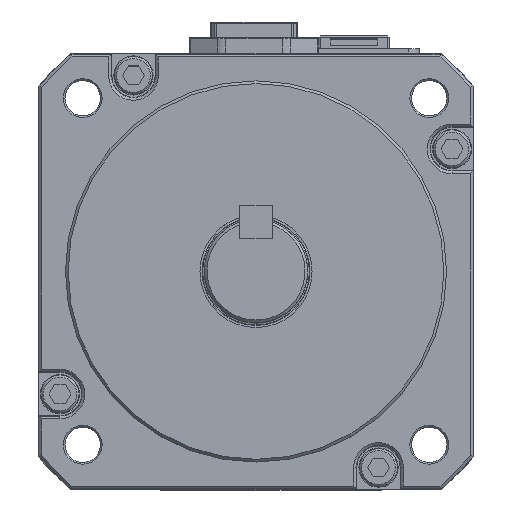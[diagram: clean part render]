
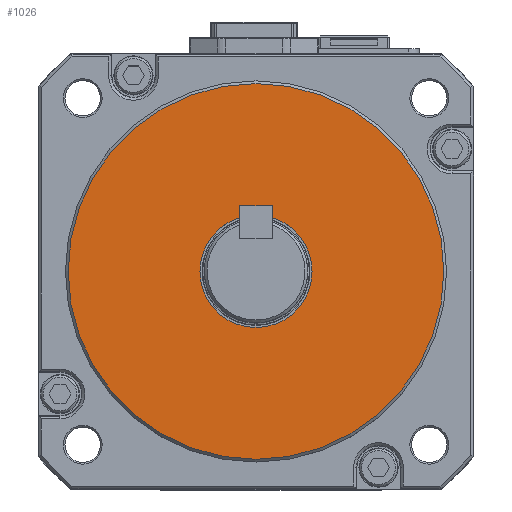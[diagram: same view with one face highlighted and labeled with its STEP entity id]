
A CAD part, top view. The second image highlights one B-rep face of the part: STEP entity #1026.
In plain terms, the highlighted planar face has unit normal (0, 0, 1).
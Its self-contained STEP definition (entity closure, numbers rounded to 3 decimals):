
#1026 = ADVANCED_FACE ( 'NONE', ( #48618, #39283 ), #28908, .T. ) ;
#1834 = CARTESIAN_POINT ( 'NONE',  ( 10.3, 0., 13. ) ) ;
#2852 = CIRCLE ( 'NONE', #37135, 34.5 ) ;
#3521 = EDGE_LOOP ( 'NONE', ( #46020 ) ) ;
#4450 = CARTESIAN_POINT ( 'NONE',  ( 34.5, 0., 13. ) ) ;
#6322 = ORIENTED_EDGE ( 'NONE', *, *, #39478, .F. ) ;
#13548 = VERTEX_POINT ( 'NONE', #4450 ) ;
#17066 = EDGE_LOOP ( 'NONE', ( #6322 ) ) ;
#17424 = VERTEX_POINT ( 'NONE', #1834 ) ;
#22425 = EDGE_CURVE ( 'NONE', #13548, #13548, #2852, .T. ) ;
#28908 = PLANE ( 'NONE',  #30255 ) ;
#30255 = AXIS2_PLACEMENT_3D ( 'NONE', #53460, #38046, #58089 ) ;
#30614 = CARTESIAN_POINT ( 'NONE',  ( 0., 0., 13. ) ) ;
#30941 = DIRECTION ( 'NONE',  ( 0., 0., 1. ) ) ;
#37135 = AXIS2_PLACEMENT_3D ( 'NONE', #30614, #30941, #45793 ) ;
#37921 = CIRCLE ( 'NONE', #50233, 10.3 ) ;
#38046 = DIRECTION ( 'NONE',  ( 0., 0., 1. ) ) ;
#39283 = FACE_OUTER_BOUND ( 'NONE', #3521, .T. ) ;
#39478 = EDGE_CURVE ( 'NONE', #17424, #17424, #37921, .T. ) ;
#45793 = DIRECTION ( 'NONE',  ( 1., 0., 0. ) ) ;
#46020 = ORIENTED_EDGE ( 'NONE', *, *, #22425, .T. ) ;
#46540 = DIRECTION ( 'NONE',  ( 1., 0., 0. ) ) ;
#48371 = CARTESIAN_POINT ( 'NONE',  ( 0., 0., 13. ) ) ;
#48618 = FACE_BOUND ( 'NONE', #17066, .T. ) ;
#50233 = AXIS2_PLACEMENT_3D ( 'NONE', #48371, #62995, #46540 ) ;
#53460 = CARTESIAN_POINT ( 'NONE',  ( 0., 0., 13. ) ) ;
#58089 = DIRECTION ( 'NONE',  ( 1., 0., 0. ) ) ;
#62995 = DIRECTION ( 'NONE',  ( 0., 0., 1. ) ) ;
